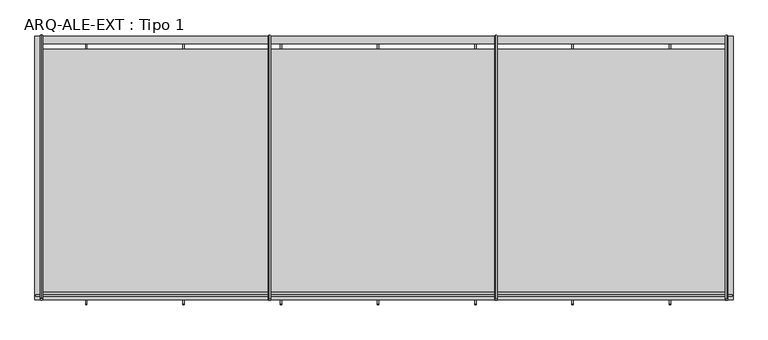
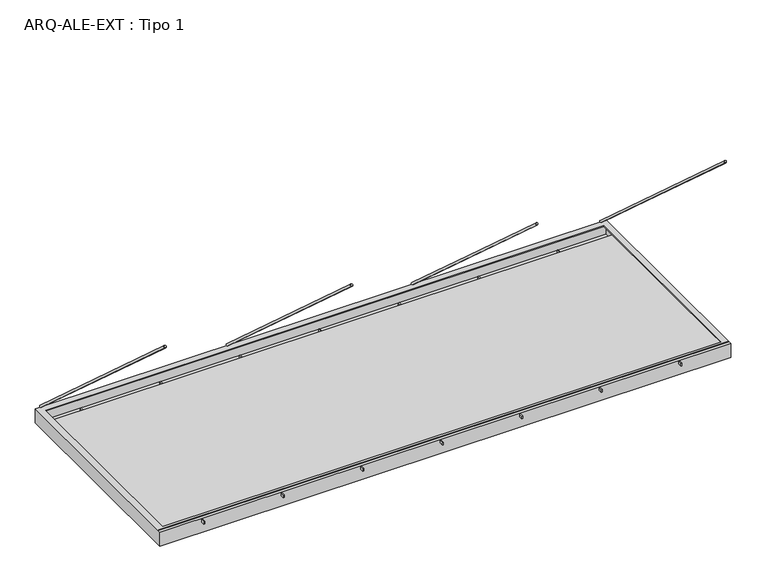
"""IFC4 building model written with IfcOpenShell, lengths in millimetres: proxy geometry, ARQ-ALE-EXT : Tipo 1."""

from ifc_helpers import new_model, si_unit, point, frame, frame_2d, origin, origin_2d, place, context, project, spatial, polyline, circle_curve, trimmed, segment, composite_curve, outline, extrude, faceted_brep, source, transform, mapped, element, save


def arq_ale_ext_tipo_1_15934bc5(model_context):
    return source(origin(), model_context, "Body", "SolidModel", [
        extrude(outline(polyline([(0.0, -10.0), (0.0, 0.0), (1988.1048472, 0.0), (1988.1048472, -10.0), (0.0, -10.0)])), frame((-1401.4586073, 301.9263201, -31.947092), z_axis=(0.0, 0.046003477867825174, 0.9989412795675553), x_axis=(0.0, 0.9989412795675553, -0.046003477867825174)), (0.0, 0.0, 1.0), 24.973532),
        extrude(outline(composite_curve([segment(trimmed(circle_curve(frame_2d((100.0, 0.0)), 10.0), [point((100.0, -10.0))], [point((100.0, 9.9999999))], False, "CARTESIAN"), True, "CONTINUOUS"), segment(trimmed(circle_curve(frame_2d((100.0, 0.0)), 10.0), [point((100.0, 9.9999999))], [point((100.0, -10.0))], False, "CARTESIAN"), True, "CONTINUOUS")], self_intersect=False)), frame((-845.0, 2340.0, 3.3826756), z_axis=(0.0, -0.74329414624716, 0.6689647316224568), x_axis=(1.0, 0.0, 0.0)), (0.0, 0.0, 1.0), 2690.7248094),
        extrude(outline(composite_curve([segment(trimmed(circle_curve(frame_2d((100.0, 0.0)), 10.0), [point((100.0, -10.0))], [point((100.0, 9.9999999))], False, "CARTESIAN"), True, "CONTINUOUS"), segment(trimmed(circle_curve(frame_2d((100.0, 0.0)), 10.0), [point((100.0, 9.9999999))], [point((100.0, -10.0))], False, "CARTESIAN"), True, "CONTINUOUS")], self_intersect=False)), frame((875.0, 2340.0, 3.3826756), z_axis=(0.0, -0.7432941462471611, 0.6689647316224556), x_axis=(1.0, 0.0, 0.0)), (0.0, 0.0, 1.0), 2690.7248094),
        extrude(outline(polyline([(5286.0, 0.0), (5286.0, -1876.6234464), (0.0, -1876.6234464), (0.0, 0.0), (5286.0, 0.0)])), frame((-2518.0, 2240.1471715, -96.185694), z_axis=(0.0, 0.04600347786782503, 0.9989412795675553), x_axis=(1.0, 0.0, 0.0)), (0.0, 0.0, 1.0), 10.0),
        extrude(outline(polyline([(0.0, -10.0), (0.0, 0.0), (1988.1048472, 0.0), (1988.1048472, -10.0), (0.0, -10.0)])), frame((-663.0618012, 302.076865, -31.947092), z_axis=(0.0, 0.046003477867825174, 0.9989412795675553), x_axis=(0.0, 0.9989412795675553, -0.046003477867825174)), (0.0, 0.0, 1.0), 24.973532),
        extrude(outline(polyline([(0.0, -10.0), (0.0, 0.0), (1988.1048472, 0.0), (1988.1048472, -10.0), (0.0, -10.0)])), frame((75.335005, 302.2274099, -31.947092), z_axis=(0.0, 0.0460034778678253, 0.9989412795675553), x_axis=(0.0, 0.9989412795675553, -0.0460034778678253)), (0.0, 0.0, 1.0), 24.973532),
        extrude(outline(composite_curve([segment(trimmed(circle_curve(frame_2d((50.0619978, 0.0)), 10.0), [point((50.0619978, -10.0))], [point((50.0619978, 10.0))], False, "CARTESIAN"), True, "CONTINUOUS"), segment(trimmed(circle_curve(frame_2d((50.0619978, 0.0)), 10.0), [point((50.0619978, 10.0))], [point((50.0619978, -10.0))], False, "CARTESIAN"), True, "CONTINUOUS")], self_intersect=False)), frame((-2525.0, 2342.358592, 4.1782788), z_axis=(0.0, -0.7432941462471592, 0.6689647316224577), x_axis=(1.0, 0.0, 0.0)), (0.0, 0.0, 1.0), 2690.7248094),
        extrude(outline(composite_curve([segment(trimmed(circle_curve(origin_2d(), 10.0), [point((0.0, -10.0))], [point((0.0, 9.9999999))], False, "CARTESIAN"), True, "CONTINUOUS"), segment(trimmed(circle_curve(origin_2d(), 10.0), [point((0.0, 9.9999999))], [point((0.0, -10.0))], False, "CARTESIAN"), True, "CONTINUOUS")], self_intersect=False)), frame((2725.0, 2340.0, 1.8250636), z_axis=(0.0, -0.7432941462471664, 0.6689647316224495), x_axis=(-1.0, 0.0, 0.0)), (0.0, 0.0, 1.0), 2690.7248094),
        extrude(outline(polyline([(0.0, -10.0), (0.0, 0.0), (1988.1048472, 0.0), (1988.1048472, -10.0), (0.0, -10.0)])), frame((813.7318111, 302.3779548, -31.947092), z_axis=(0.0, 0.04600347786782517, 0.9989412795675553), x_axis=(0.0, 0.9989412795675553, -0.04600347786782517)), (0.0, 0.0, 1.0), 24.973532),
        extrude(outline(polyline([(0.0, -10.0), (0.0, 0.0), (1988.1048472, 0.0), (1988.1048472, -10.0), (0.0, -10.0)])), frame((1552.1286173, 302.5284997, -31.947092), z_axis=(0.0, 0.04600347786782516, 0.9989412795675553), x_axis=(0.0, 0.9989412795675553, -0.04600347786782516)), (0.0, 0.0, 1.0), 24.973532),
        extrude(outline(polyline([(0.0, -10.0), (0.0, 0.0), (1988.1048472, 0.0), (1988.1048472, -10.0), (0.0, -10.0)])), frame((-2139.8554135, 301.7757752, -31.947092), z_axis=(0.0, 0.046003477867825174, 0.9989412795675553), x_axis=(0.0, 0.9989412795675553, -0.046003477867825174)), (0.0, 0.0, 1.0), 24.973532),
        extrude(outline(polyline([(0.0, -10.0), (0.0, 0.0), (1988.1048472, 0.0), (1988.1048472, -10.0), (0.0, -10.0)])), frame((2290.5254234, 302.6790446, -31.947092), z_axis=(0.0, 0.04600347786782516, 0.9989412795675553), x_axis=(0.0, 0.9989412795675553, -0.04600347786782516)), (0.0, 0.0, 1.0), 24.973532),
        faceted_brep([(-2465.0, 2280.0, -133.0), (-2465.0, 2280.0, -140.0), (2715.0, 2280.0, -140.0), (2715.0, 2280.0, -133.0), (-2518.0, 2333.0, -7.0), (-2518.0, 2333.0, -133.0), (2768.0, 2333.0, -133.0), (2768.0, 2333.0, -7.0), (-2465.0, 2280.0, 0.0), (-2465.0, 2280.0, -7.0), (2715.0, 2280.0, -7.0), (2715.0, 2280.0, 0.0), (-2525.0, 2340.0, -140.0), (-2525.0, 2340.0, 0.0), (2775.0, 2340.0, 0.0), (2775.0, 2340.0, -140.0), (2715.0, 400.0, -140.0), (2715.0, 400.0, -133.0), (2768.0, 347.0, -133.0), (2768.0, 347.0, -7.0), (2715.0, 400.0, -7.0), (2715.0, 400.0, 0.0), (2775.0, 340.0, 0.0), (2775.0, 340.0, -140.0), (-2465.0, 400.0, -140.0), (-2465.0, 400.0, -133.0), (-2518.0, 347.0, -133.0), (-2518.0, 347.0, -7.0), (-2465.0, 400.0, -7.0), (-2465.0, 400.0, 0.0), (-2525.0, 340.0, 0.0), (-2525.0, 340.0, -140.0)], [[[0, 1, 2, 3]], [[4, 5, 6, 7]], [[8, 9, 10, 11]], [[12, 13, 14, 15]], [[3, 2, 16, 17]], [[7, 6, 18, 19]], [[11, 10, 20, 21]], [[15, 14, 22, 23]], [[17, 16, 24, 25]], [[19, 18, 26, 27]], [[21, 20, 28, 29]], [[23, 22, 30, 31]], [[15, 23, 31, 12], [1, 24, 16, 2]], [[25, 24, 1, 0]], [[5, 26, 18, 6], [3, 17, 25, 0]], [[27, 26, 5, 4]], [[7, 19, 27, 4], [9, 28, 20, 10]], [[29, 28, 9, 8]], [[13, 30, 22, 14], [11, 21, 29, 8]], [[31, 30, 13, 12]]]),
    ])


if __name__ == "__main__":
    model = new_model("IFC4")
    model_context = context("Model", 3, world=origin())
    ifc_project = project(units=[si_unit("LENGTHUNIT", "METRE", prefix="MILLI")], contexts=[model_context])
    site = spatial("IfcSite", under=ifc_project)
    building = spatial("IfcBuilding", under=site)
    placement = place(None, origin())
    arq_ale_ext_tipo_1_shape = arq_ale_ext_tipo_1_15934bc5(model_context)
    element("IfcBuildingElementProxy", 1, Name="ARQ-ALE-EXT : Tipo 1", ObjectType="ARQ-ALE-EXT : Tipo 1", at=placement, inside=building, context=model_context, shape_type="MappedRepresentation", body=[
        mapped(arq_ale_ext_tipo_1_shape, transform((0.0, 0.0, 0.0), x_axis=(1.0, 0.0, 0.0), y_axis=(0.0, 1.0, 0.0), z_axis=(0.0, 0.0, 1.0))),
    ])
    save(model, "model.ifc")
